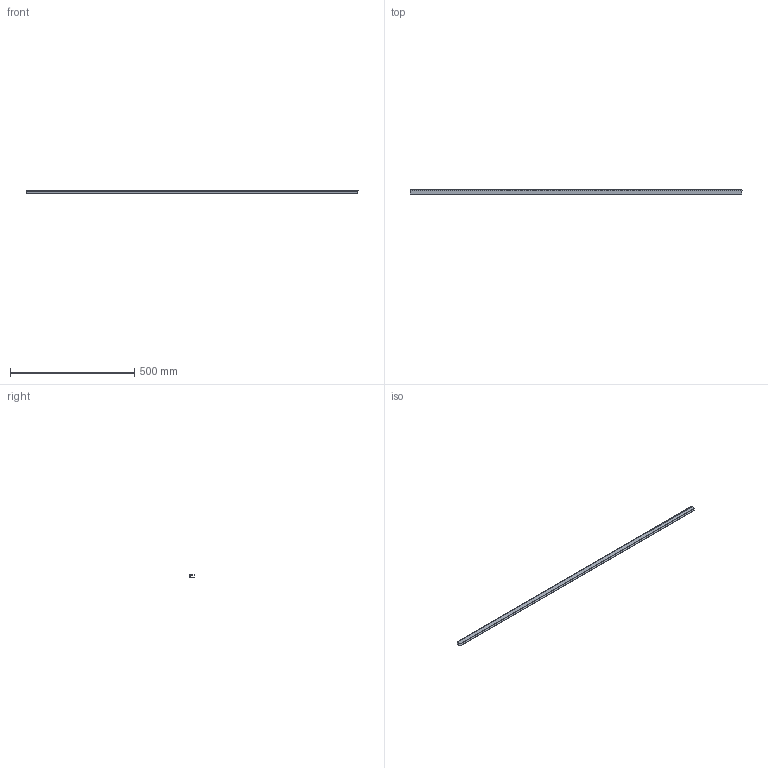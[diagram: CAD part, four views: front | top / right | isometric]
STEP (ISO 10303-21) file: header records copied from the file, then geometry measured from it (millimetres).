
FILE_DESCRIPTION(/* description */ (''),/* implementation_level */ '2;1');
FILE_NAME(/* name */ 'Pos121-GLASLAT T.B.V. PV-SCHERM-Aluminium-2st',/* time_stamp */ '2024-08-06T11:49:44+02:00',/* author */ (''),/* organization */ (''),/* preprocessor_version */ 'ST-DEVELOPER v16.5',/* originating_system */ 'HiCAD 2024 2901.2 Build 361',/* authorisation */ '');
FILE_SCHEMA (('AUTOMOTIVE_DESIGN { 1 0 10303 214 1 1 1 1 }'));
Length unit declared in the file: millimetre
Products named in the file (1): Pos121-GLASLAT T.B.V. PV-SCHERM-Aluminium-2st
Bounding box: 1335 x 17 x 12.5 mm (x, y, z)
Volume: 74092.5 mm3; surface area: 120261 mm2
Topology: 1 solids, 1 shells, 12 faces, 30 edges, 20 vertices
Faces by surface type: plane 12
Entity records: 672 total; most frequent: CARTESIAN_POINT 62, PRESENTATION_STYLE_ASSIGNMENT 61, COLOUR_RGB 61, DRAUGHTING_PRE_DEFINED_CURVE_FONT 60, CURVE_STYLE 60, OVER_RIDING_STYLED_ITEM 60, ORIENTED_EDGE 60, DIRECTION 54
